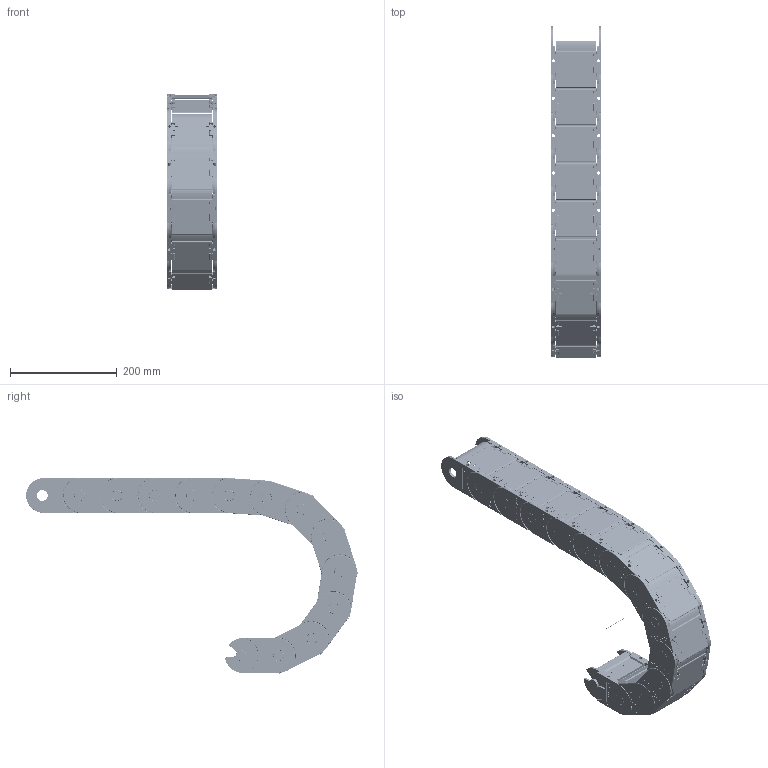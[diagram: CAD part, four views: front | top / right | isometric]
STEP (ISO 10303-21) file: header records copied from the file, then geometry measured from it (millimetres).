
FILE_DESCRIPTION((''),'2;1');
FILE_NAME('C:\Uebbing\PARAMETERKETTEN\KOLIBRI\Kol_65_095_5\Kol_65_095_5_R150.stp','2012-03-06T08:36:59',('Uebbing'),(''),'Autodesk Inventor 10','Autodesk Inventor 10','');
FILE_SCHEMA(('AUTOMOTIVE_DESIGN { 1 0 10303 214 1 1 1 1 }'));
Length unit declared in the file: millimetre
Products named in the file (5): KOLIBRI 65_095_5_PARAMETRISCH; Achse; Kol_65_095_5; Kol_65_095_5 Klappdeckel; Kol_65_095_5 Lasche
Assembly tree (16 placements, depth 3):
  KOLIBRI 65_095_5_PARAMETRISCH
    Achse
    Kol_65_095_5  x13
      Kol_65_095_5 Klappdeckel
      Kol_65_095_5 Lasche
Bounding box: 95 x 621.99 x 366.74 mm (x, y, z)
Volume: 1338468.7 mm3; surface area: 863384.5 mm2
Topology: 27 solids, 27 shells, 7621 faces, 20726 edges, 13250 vertices
Faces by surface type: plane 3070, bspline 2821, cylinder 1405, torus 247, cone 52, sphere 26
Full cylindrical faces by diameter (mm): 1 x1, 2.514 x13, 4 x39, 4.414 x13, 6 x26, 20 x26
Entity records: 20002 total; most frequent: CARTESIAN_POINT 5560, ORIENTED_EDGE 3122, DIRECTION 2717, EDGE_CURVE 1561, VECTOR 1115, LINE 1115, VERTEX_POINT 1010, AXIS2_PLACEMENT_3D 801
